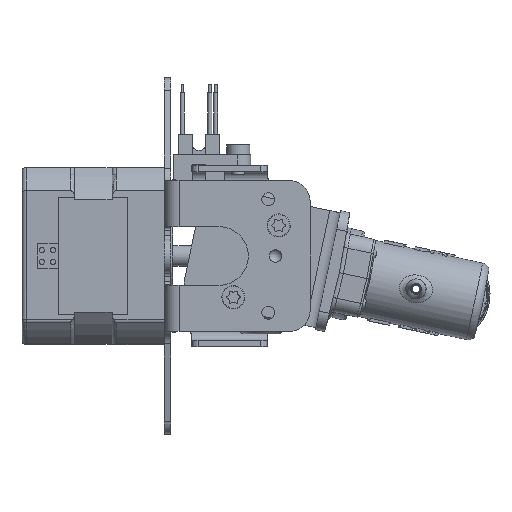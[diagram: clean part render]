
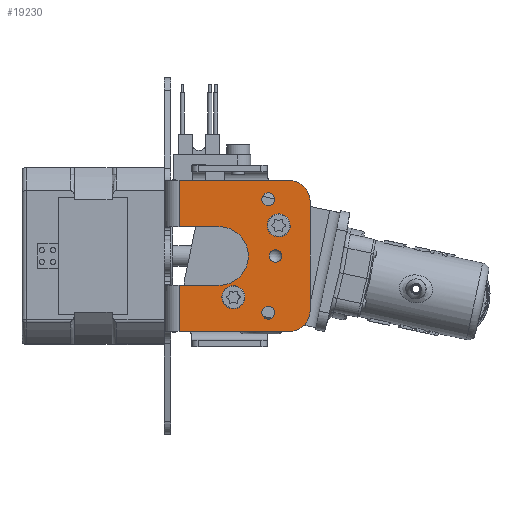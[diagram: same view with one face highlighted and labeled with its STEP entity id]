
A CAD part, front view. The second image highlights one B-rep face of the part: STEP entity #19230.
In plain terms, the highlighted planar face has unit normal (0, -1, 0) as drawn and (1, 0, 0) by its records, which use the part's own axes.
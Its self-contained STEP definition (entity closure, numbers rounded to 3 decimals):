
#345 = ORIENTED_EDGE ( 'NONE', *, *, #17501, .F. ) ;
#423 = DIRECTION ( 'NONE',  ( 0., -1., 0. ) ) ;
#568 = ORIENTED_EDGE ( 'NONE', *, *, #5192, .F. ) ;
#746 = EDGE_CURVE ( 'NONE', #16696, #16696, #28114, .T. ) ;
#1149 = LINE ( 'NONE', #10000, #21319 ) ;
#1577 = VERTEX_POINT ( 'NONE', #7603 ) ;
#1885 = CARTESIAN_POINT ( 'NONE',  ( 22.75, -7., 3.5 ) ) ;
#1941 = CARTESIAN_POINT ( 'NONE',  ( 22.75, -7., 13.001 ) ) ;
#1949 = DIRECTION ( 'NONE',  ( 0., 0., 1. ) ) ;
#2160 = ORIENTED_EDGE ( 'NONE', *, *, #10284, .T. ) ;
#2564 = ORIENTED_EDGE ( 'NONE', *, *, #8185, .F. ) ;
#2705 = DIRECTION ( 'NONE',  ( -1., 0., 0. ) ) ;
#3147 = AXIS2_PLACEMENT_3D ( 'NONE', #18505, #3361, #21046 ) ;
#3361 = DIRECTION ( 'NONE',  ( 1., 0., 0. ) ) ;
#4604 = VERTEX_POINT ( 'NONE', #27403 ) ;
#5096 = CARTESIAN_POINT ( 'NONE',  ( 22.75, 13., -70.75 ) ) ;
#5192 = EDGE_CURVE ( 'NONE', #30462, #4604, #21360, .T. ) ;
#5419 = DIRECTION ( 'NONE',  ( 1., 0., 0. ) ) ;
#5766 = EDGE_CURVE ( 'NONE', #32582, #21150, #16195, .T. ) ;
#5785 = VECTOR ( 'NONE', #423, 1000. ) ;
#6269 = FACE_BOUND ( 'NONE', #22491, .T. ) ;
#6322 = CARTESIAN_POINT ( 'NONE',  ( 22.75, 13., 3.5 ) ) ;
#6387 = CARTESIAN_POINT ( 'NONE',  ( 22.75, 7., 13.001 ) ) ;
#6957 = CARTESIAN_POINT ( 'NONE',  ( 22.75, 13., 34.753 ) ) ;
#7516 = EDGE_CURVE ( 'NONE', #15183, #1577, #14878, .T. ) ;
#7603 = CARTESIAN_POINT ( 'NONE',  ( 22.75, 13., 34.753 ) ) ;
#7963 = EDGE_LOOP ( 'NONE', ( #25486 ) ) ;
#8132 = AXIS2_PLACEMENT_3D ( 'NONE', #17852, #2705, #20378 ) ;
#8185 = EDGE_CURVE ( 'NONE', #1577, #28964, #17858, .T. ) ;
#8800 = CARTESIAN_POINT ( 'NONE',  ( 22.75, -13., 34.753 ) ) ;
#8919 = DIRECTION ( 'NONE',  ( 0., 0., -1. ) ) ;
#8938 = VECTOR ( 'NONE', #22103, 1000. ) ;
#9546 = DIRECTION ( 'NONE',  ( 1., 0., 0. ) ) ;
#9765 = DIRECTION ( 'NONE',  ( -1., 0., 0. ) ) ;
#9819 = FACE_BOUND ( 'NONE', #7963, .T. ) ;
#9950 = ORIENTED_EDGE ( 'NONE', *, *, #5766, .T. ) ;
#10000 = CARTESIAN_POINT ( 'NONE',  ( 22.75, -7., -0.699 ) ) ;
#10284 = EDGE_CURVE ( 'NONE', #30837, #32582, #1149, .T. ) ;
#10598 = VECTOR ( 'NONE', #21486, 1000. ) ;
#10608 = VERTEX_POINT ( 'NONE', #28426 ) ;
#10761 = DIRECTION ( 'NONE',  ( -1., 0., 0. ) ) ;
#11007 = ORIENTED_EDGE ( 'NONE', *, *, #11165, .F. ) ;
#11136 = CIRCLE ( 'NONE', #12246, 5. ) ;
#11165 = EDGE_CURVE ( 'NONE', #31735, #31735, #14154, .T. ) ;
#11930 = EDGE_CURVE ( 'NONE', #30837, #30462, #19239, .T. ) ;
#12164 = EDGE_CURVE ( 'NONE', #28964, #10608, #27126, .T. ) ;
#12246 = AXIS2_PLACEMENT_3D ( 'NONE', #25904, #10761, #28453 ) ;
#12714 = CARTESIAN_POINT ( 'NONE',  ( 22.75, 7., 3.5 ) ) ;
#13537 = AXIS2_PLACEMENT_3D ( 'NONE', #20574, #5419, #23105 ) ;
#13724 = VECTOR ( 'NONE', #21540, 1000. ) ;
#14086 = LINE ( 'NONE', #6387, #26713 ) ;
#14154 = CIRCLE ( 'NONE', #13537, 1.55 ) ;
#14593 = AXIS2_PLACEMENT_3D ( 'NONE', #5096, #30430, #15254 ) ;
#14613 = VECTOR ( 'NONE', #1949, 1000. ) ;
#14878 = LINE ( 'NONE', #6957, #8938 ) ;
#15183 = VERTEX_POINT ( 'NONE', #8800 ) ;
#15186 = EDGE_LOOP ( 'NONE', ( #20471 ) ) ;
#15254 = DIRECTION ( 'NONE',  ( 0., 0., -1. ) ) ;
#16195 = CIRCLE ( 'NONE', #26803, 7. ) ;
#16562 = FACE_OUTER_BOUND ( 'NONE', #19441, .T. ) ;
#16696 = VERTEX_POINT ( 'NONE', #20820 ) ;
#17332 = LINE ( 'NONE', #6322, #10598 ) ;
#17501 = EDGE_CURVE ( 'NONE', #4604, #15183, #11136, .T. ) ;
#17852 = CARTESIAN_POINT ( 'NONE',  ( 22.75, 13., 29.753 ) ) ;
#17858 = CIRCLE ( 'NONE', #8132, 5. ) ;
#18105 = VERTEX_POINT ( 'NONE', #12714 ) ;
#18344 = ORIENTED_EDGE ( 'NONE', *, *, #11930, .F. ) ;
#18505 = CARTESIAN_POINT ( 'NONE',  ( 22.75, 0., 26.5 ) ) ;
#19230 = ADVANCED_FACE ( 'NONE', ( #9819, #6269, #30018, #16562 ), #20235, .T. ) ;
#19239 = LINE ( 'NONE', #20533, #5785 ) ;
#19441 = EDGE_LOOP ( 'NONE', ( #18344, #2160, #9950, #27906, #22006, #21726, #2564, #23890, #345, #568 ) ) ;
#19466 = CARTESIAN_POINT ( 'NONE',  ( 22.75, 0., 25.009 ) ) ;
#20235 = PLANE ( 'NONE',  #14593 ) ;
#20378 = DIRECTION ( 'NONE',  ( 0., 0., 1. ) ) ;
#20471 = ORIENTED_EDGE ( 'NONE', *, *, #22514, .F. ) ;
#20533 = CARTESIAN_POINT ( 'NONE',  ( 22.75, 13., 3.5 ) ) ;
#20574 = CARTESIAN_POINT ( 'NONE',  ( 22.75, 13.52, 24.75 ) ) ;
#20591 = VERTEX_POINT ( 'NONE', #19466 ) ;
#20820 = CARTESIAN_POINT ( 'NONE',  ( 22.75, -13.52, 23.2 ) ) ;
#21046 = DIRECTION ( 'NONE',  ( 0., 0., -1. ) ) ;
#21150 = VERTEX_POINT ( 'NONE', #25879 ) ;
#21319 = VECTOR ( 'NONE', #27677, 1000. ) ;
#21360 = LINE ( 'NONE', #24593, #14613 ) ;
#21486 = DIRECTION ( 'NONE',  ( 0., -1., 0. ) ) ;
#21540 = DIRECTION ( 'NONE',  ( 0., 0., -1. ) ) ;
#21726 = ORIENTED_EDGE ( 'NONE', *, *, #12164, .F. ) ;
#21938 = CARTESIAN_POINT ( 'NONE',  ( 22.75, 18., 29.753 ) ) ;
#22006 = ORIENTED_EDGE ( 'NONE', *, *, #23582, .F. ) ;
#22103 = DIRECTION ( 'NONE',  ( 0., 1., 0. ) ) ;
#22446 = AXIS2_PLACEMENT_3D ( 'NONE', #24674, #9546, #27227 ) ;
#22491 = EDGE_LOOP ( 'NONE', ( #11007 ) ) ;
#22514 = EDGE_CURVE ( 'NONE', #20591, #20591, #25285, .T. ) ;
#23105 = DIRECTION ( 'NONE',  ( 0., 0., -1. ) ) ;
#23582 = EDGE_CURVE ( 'NONE', #10608, #18105, #17332, .T. ) ;
#23890 = ORIENTED_EDGE ( 'NONE', *, *, #7516, .F. ) ;
#24045 = CARTESIAN_POINT ( 'NONE',  ( 22.75, 18., -5.487 ) ) ;
#24593 = CARTESIAN_POINT ( 'NONE',  ( 22.75, -18., -5.487 ) ) ;
#24674 = CARTESIAN_POINT ( 'NONE',  ( 22.75, -13.52, 24.75 ) ) ;
#24900 = CARTESIAN_POINT ( 'NONE',  ( 22.75, 0., 13.001 ) ) ;
#25285 = CIRCLE ( 'NONE', #3147, 1.491 ) ;
#25486 = ORIENTED_EDGE ( 'NONE', *, *, #746, .F. ) ;
#25879 = CARTESIAN_POINT ( 'NONE',  ( 22.75, 7., 13.001 ) ) ;
#25904 = CARTESIAN_POINT ( 'NONE',  ( 22.75, -13., 29.753 ) ) ;
#26112 = EDGE_CURVE ( 'NONE', #21150, #18105, #14086, .T. ) ;
#26713 = VECTOR ( 'NONE', #8919, 1000. ) ;
#26803 = AXIS2_PLACEMENT_3D ( 'NONE', #24900, #9765, #27450 ) ;
#27126 = LINE ( 'NONE', #24045, #13724 ) ;
#27227 = DIRECTION ( 'NONE',  ( 0., 0., -1. ) ) ;
#27403 = CARTESIAN_POINT ( 'NONE',  ( 22.75, -18., 29.753 ) ) ;
#27450 = DIRECTION ( 'NONE',  ( 0., 0., 1. ) ) ;
#27677 = DIRECTION ( 'NONE',  ( 0., 0., 1. ) ) ;
#27906 = ORIENTED_EDGE ( 'NONE', *, *, #26112, .T. ) ;
#28114 = CIRCLE ( 'NONE', #22446, 1.55 ) ;
#28426 = CARTESIAN_POINT ( 'NONE',  ( 22.75, 18., 3.5 ) ) ;
#28453 = DIRECTION ( 'NONE',  ( 0., 0., -1. ) ) ;
#28964 = VERTEX_POINT ( 'NONE', #21938 ) ;
#28999 = CARTESIAN_POINT ( 'NONE',  ( 22.75, 13.52, 23.2 ) ) ;
#30018 = FACE_BOUND ( 'NONE', #15186, .T. ) ;
#30245 = CARTESIAN_POINT ( 'NONE',  ( 22.75, -18., 3.5 ) ) ;
#30430 = DIRECTION ( 'NONE',  ( 1., 0., 0. ) ) ;
#30462 = VERTEX_POINT ( 'NONE', #30245 ) ;
#30837 = VERTEX_POINT ( 'NONE', #1885 ) ;
#31735 = VERTEX_POINT ( 'NONE', #28999 ) ;
#32582 = VERTEX_POINT ( 'NONE', #1941 ) ;
